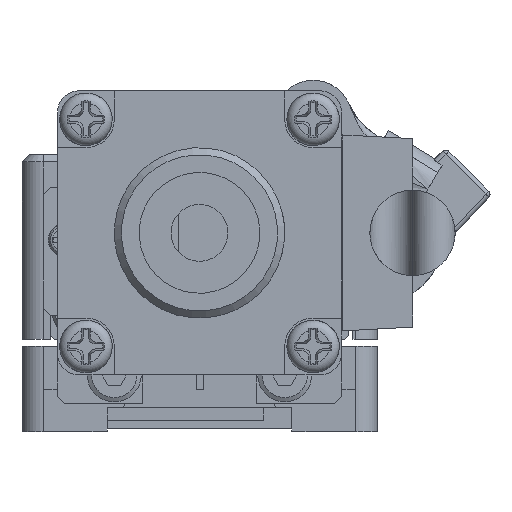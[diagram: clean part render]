
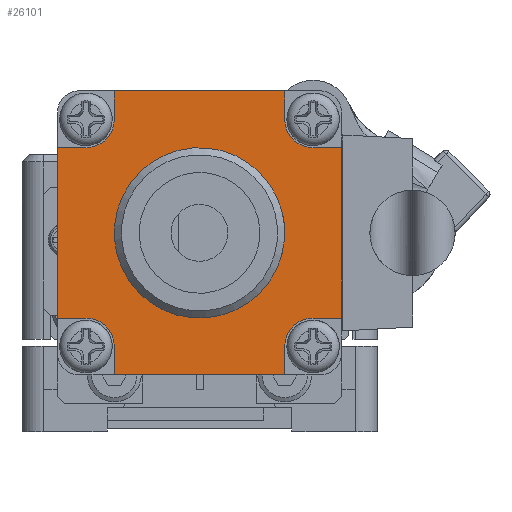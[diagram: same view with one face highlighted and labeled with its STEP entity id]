
A CAD part, front view. The second image highlights one B-rep face of the part: STEP entity #26101.
In plain terms, the highlighted planar face has unit normal (0, -1, 0).
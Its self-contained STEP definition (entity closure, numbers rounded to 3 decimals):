
#1219=LINE('',#41636,#3406);
#1223=LINE('',#41648,#3410);
#1233=LINE('',#41674,#3420);
#1237=LINE('',#41685,#3424);
#1247=LINE('',#41710,#3434);
#1251=LINE('',#41722,#3438);
#1255=LINE('',#41734,#3442);
#1256=LINE('',#41736,#3443);
#1257=LINE('',#41740,#3444);
#1258=LINE('',#41741,#3445);
#1259=LINE('',#41742,#3446);
#1260=LINE('',#41743,#3447);
#3406=VECTOR('',#32769,10.);
#3410=VECTOR('',#32781,10.);
#3420=VECTOR('',#32801,10.);
#3424=VECTOR('',#32813,10.);
#3434=VECTOR('',#32833,10.);
#3438=VECTOR('',#32845,10.);
#3442=VECTOR('',#32857,10.);
#3443=VECTOR('',#32858,10.);
#3444=VECTOR('',#32861,10.);
#3445=VECTOR('',#32862,10.);
#3446=VECTOR('',#32863,10.);
#3447=VECTOR('',#32864,10.);
#5673=FACE_BOUND('',#8462,.T.);
#6599=FACE_OUTER_BOUND('',#8461,.T.);
#8461=EDGE_LOOP('',(#19414,#19415,#19416,#19417,#19418,#19419,#19420,#19421,
#19422,#19423,#19424,#19425,#19426,#19427,#19428,#19429));
#8462=EDGE_LOOP('',(#19430));
#10181=CIRCLE('',#28233,2.);
#10185=CIRCLE('',#28242,2.);
#10189=CIRCLE('',#28251,2.);
#10192=CIRCLE('',#28257,2.);
#10193=CIRCLE('',#28258,2.);
#11739=VERTEX_POINT('',#41633);
#11740=VERTEX_POINT('',#41635);
#11742=VERTEX_POINT('',#41641);
#11744=VERTEX_POINT('',#41647);
#11754=VERTEX_POINT('',#41671);
#11755=VERTEX_POINT('',#41673);
#11757=VERTEX_POINT('',#41679);
#11758=VERTEX_POINT('',#41684);
#11767=VERTEX_POINT('',#41707);
#11768=VERTEX_POINT('',#41709);
#11770=VERTEX_POINT('',#41715);
#11772=VERTEX_POINT('',#41721);
#11776=VERTEX_POINT('',#41733);
#11777=VERTEX_POINT('',#41735);
#11778=VERTEX_POINT('',#41737);
#11779=VERTEX_POINT('',#41739);
#11780=VERTEX_POINT('',#41744);
#14593=EDGE_CURVE('',#11740,#11739,#1219,.T.);
#14596=EDGE_CURVE('',#11742,#11740,#10181,.T.);
#14599=EDGE_CURVE('',#11744,#11742,#1223,.T.);
#14611=EDGE_CURVE('',#11755,#11754,#1233,.T.);
#14614=EDGE_CURVE('',#11757,#11755,#10185,.T.);
#14617=EDGE_CURVE('',#11758,#11757,#1237,.T.);
#14629=EDGE_CURVE('',#11768,#11767,#1247,.T.);
#14632=EDGE_CURVE('',#11770,#11768,#10189,.T.);
#14635=EDGE_CURVE('',#11772,#11770,#1251,.T.);
#14641=EDGE_CURVE('',#11776,#11739,#1255,.T.);
#14642=EDGE_CURVE('',#11776,#11777,#1256,.T.);
#14643=EDGE_CURVE('',#11777,#11778,#10192,.T.);
#14644=EDGE_CURVE('',#11778,#11779,#1257,.T.);
#14645=EDGE_CURVE('',#11772,#11779,#1258,.T.);
#14646=EDGE_CURVE('',#11758,#11767,#1259,.T.);
#14647=EDGE_CURVE('',#11744,#11754,#1260,.T.);
#14648=EDGE_CURVE('',#11780,#11780,#10193,.T.);
#19414=ORIENTED_EDGE('',*,*,#14599,.T.);
#19415=ORIENTED_EDGE('',*,*,#14596,.T.);
#19416=ORIENTED_EDGE('',*,*,#14593,.T.);
#19417=ORIENTED_EDGE('',*,*,#14641,.F.);
#19418=ORIENTED_EDGE('',*,*,#14642,.T.);
#19419=ORIENTED_EDGE('',*,*,#14643,.T.);
#19420=ORIENTED_EDGE('',*,*,#14644,.T.);
#19421=ORIENTED_EDGE('',*,*,#14645,.F.);
#19422=ORIENTED_EDGE('',*,*,#14635,.T.);
#19423=ORIENTED_EDGE('',*,*,#14632,.T.);
#19424=ORIENTED_EDGE('',*,*,#14629,.T.);
#19425=ORIENTED_EDGE('',*,*,#14646,.F.);
#19426=ORIENTED_EDGE('',*,*,#14617,.T.);
#19427=ORIENTED_EDGE('',*,*,#14614,.T.);
#19428=ORIENTED_EDGE('',*,*,#14611,.T.);
#19429=ORIENTED_EDGE('',*,*,#14647,.F.);
#19430=ORIENTED_EDGE('',*,*,#14648,.T.);
#24313=PLANE('',#28256);
#26101=ADVANCED_FACE('',(#6599,#5673),#24313,.T.);
#28233=AXIS2_PLACEMENT_3D('',#41642,#32775,#32776);
#28242=AXIS2_PLACEMENT_3D('',#41680,#32807,#32808);
#28251=AXIS2_PLACEMENT_3D('',#41716,#32839,#32840);
#28256=AXIS2_PLACEMENT_3D('',#41732,#32855,#32856);
#28257=AXIS2_PLACEMENT_3D('',#41738,#32859,#32860);
#28258=AXIS2_PLACEMENT_3D('',#41745,#32865,#32866);
#32769=DIRECTION('',(-1.,0.,0.));
#32775=DIRECTION('center_axis',(0.,1.,0.));
#32776=DIRECTION('ref_axis',(0.,0.,
1.));
#32781=DIRECTION('',(0.,0.,-1.));
#32801=DIRECTION('',(0.,0.,1.));
#32807=DIRECTION('center_axis',(0.,1.,0.));
#32808=DIRECTION('ref_axis',(1.,0.,0.));
#32813=DIRECTION('',(-1.,0.,0.));
#32833=DIRECTION('',(1.,0.,0.));
#32839=DIRECTION('center_axis',(0.,1.,0.));
#32840=DIRECTION('ref_axis',(0.,0.,
-1.));
#32845=DIRECTION('',(0.,0.,1.));
#32855=DIRECTION('center_axis',(0.,-1.,0.));
#32856=DIRECTION('ref_axis',(-1.,0.,0.));
#32857=DIRECTION('',(0.,0.,1.));
#32858=DIRECTION('',(1.,0.,0.));
#32859=DIRECTION('center_axis',(0.,1.,0.));
#32860=DIRECTION('ref_axis',(-1.,0.,0.));
#32861=DIRECTION('',(0.,0.,-1.));
#32862=DIRECTION('',(-1.,0.,0.));
#32863=DIRECTION('',(0.,0.,-1.));
#32864=DIRECTION('',(1.,0.,0.));
#32865=DIRECTION('center_axis',(0.,1.,0.));
#32866=DIRECTION('ref_axis',(1.,0.,0.));
#41633=CARTESIAN_POINT('',(-10.,-77.,20.));
#41635=CARTESIAN_POINT('',(-8.,-77.,20.));
#41636=CARTESIAN_POINT('',(-5.,-77.,20.));
#41641=CARTESIAN_POINT('',(-6.,-77.,22.));
#41642=CARTESIAN_POINT('Origin',(-8.,-77.,22.));
#41647=CARTESIAN_POINT('',(-6.,-77.,24.));
#41648=CARTESIAN_POINT('',(-6.,-77.,18.));
#41671=CARTESIAN_POINT('',(6.,-77.,24.));
#41673=CARTESIAN_POINT('',(6.,-77.,22.));
#41674=CARTESIAN_POINT('',(6.,-77.,19.));
#41679=CARTESIAN_POINT('',(8.,-77.,20.));
#41680=CARTESIAN_POINT('Origin',(8.,-77.,22.));
#41684=CARTESIAN_POINT('',(10.,-77.,20.));
#41685=CARTESIAN_POINT('',(4.,-77.,20.));
#41707=CARTESIAN_POINT('',(10.,-77.,8.));
#41709=CARTESIAN_POINT('',(8.,-77.,8.));
#41710=CARTESIAN_POINT('',(5.,-77.,8.));
#41715=CARTESIAN_POINT('',(6.,-77.,6.));
#41716=CARTESIAN_POINT('Origin',(8.,-77.,6.));
#41721=CARTESIAN_POINT('',(6.,-77.,4.));
#41722=CARTESIAN_POINT('',(6.,-77.,10.));
#41732=CARTESIAN_POINT('Origin',(0.,-77.,14.));
#41733=CARTESIAN_POINT('',(-10.,-77.,8.));
#41734=CARTESIAN_POINT('',(-10.,-77.,4.));
#41735=CARTESIAN_POINT('',(-8.,-77.,8.));
#41736=CARTESIAN_POINT('',(-4.,-77.,8.));
#41737=CARTESIAN_POINT('',(-6.,-77.,6.));
#41738=CARTESIAN_POINT('Origin',(-8.,-77.,6.));
#41739=CARTESIAN_POINT('',(-6.,-77.,4.));
#41740=CARTESIAN_POINT('',(-6.,-77.,9.));
#41741=CARTESIAN_POINT('',(10.,-77.,4.));
#41742=CARTESIAN_POINT('',(10.,-77.,24.));
#41743=CARTESIAN_POINT('',(-10.,-77.,24.));
#41744=CARTESIAN_POINT('',(-2.,-77.,14.));
#41745=CARTESIAN_POINT('Origin',(0.,-77.,14.));
